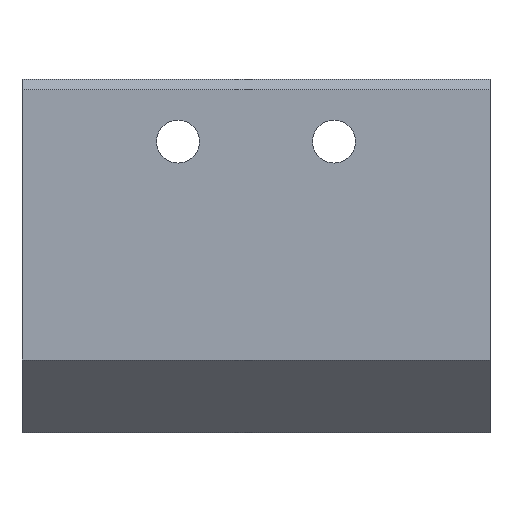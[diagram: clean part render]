
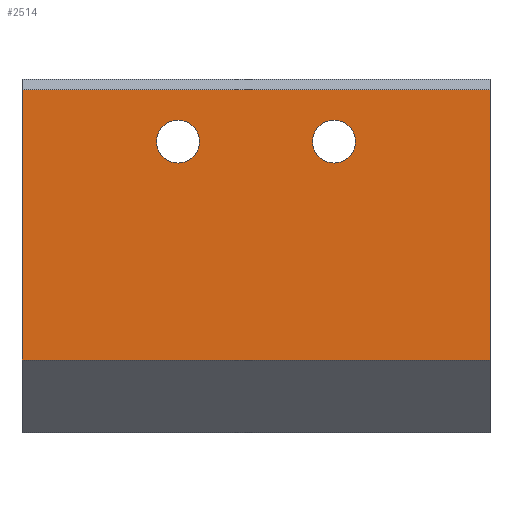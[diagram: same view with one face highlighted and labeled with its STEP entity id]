
A CAD part, front view. The second image highlights one B-rep face of the part: STEP entity #2514.
In plain terms, the highlighted planar face has unit normal (0, -1, 0).
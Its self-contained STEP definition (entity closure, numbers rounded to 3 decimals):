
#1355=CARTESIAN_POINT('',(45.0,-14.,19.));
#1356=VERTEX_POINT('',#1355);
#1373=CARTESIAN_POINT('',(0.0,-14.,19.));
#1374=VERTEX_POINT('',#1373);
#1381=CARTESIAN_POINT('',(0.0,-14.,19.));
#1382=DIRECTION('',(1.0,0.0,0.0));
#1383=VECTOR('',#1382,45.0);
#1384=LINE('',#1381,#1383);
#1385=EDGE_CURVE('',#1374,#1356,#1384,.T.);
#1436=CARTESIAN_POINT('',(0.0,-14.,-7.));
#1437=VERTEX_POINT('',#1436);
#1444=CARTESIAN_POINT('',(0.0,-14.,-7.));
#1445=DIRECTION('',(0.0,0.0,1.0));
#1446=VECTOR('',#1445,26.0);
#1447=LINE('',#1444,#1446);
#1448=EDGE_CURVE('',#1437,#1374,#1447,.T.);
#1541=CARTESIAN_POINT('',(45.0,-14.,-7.));
#1542=VERTEX_POINT('',#1541);
#1549=CARTESIAN_POINT('',(45.0,-14.,-7.));
#1550=DIRECTION('',(-1.0,0.0,0.0));
#1551=VECTOR('',#1550,45.0);
#1552=LINE('',#1549,#1551);
#1553=EDGE_CURVE('',#1542,#1437,#1552,.T.);
#2248=CARTESIAN_POINT('',(32.067,-14.,14.));
#2249=VERTEX_POINT('',#2248);
#2250=CARTESIAN_POINT('',(30.0,-14.,14.));
#2251=DIRECTION('',(0.0,1.0,0.0));
#2252=DIRECTION('',(-1.0,0.0,0.0));
#2253=AXIS2_PLACEMENT_3D('',#2250,#2251,#2252);
#2254=CIRCLE('',#2253,2.067);
#2255=EDGE_CURVE('',#2249,#2249,#2254,.T.);
#2358=CARTESIAN_POINT('',(17.067,-14.,14.));
#2359=VERTEX_POINT('',#2358);
#2360=CARTESIAN_POINT('',(15.0,-14.,14.));
#2361=DIRECTION('',(0.0,1.0,0.0));
#2362=DIRECTION('',(-1.0,0.0,0.0));
#2363=AXIS2_PLACEMENT_3D('',#2360,#2361,#2362);
#2364=CIRCLE('',#2363,2.067);
#2365=EDGE_CURVE('',#2359,#2359,#2364,.T.);
#2492=CARTESIAN_POINT('',(0.0,-14.,-14.));
#2493=DIRECTION('',(0.0,-1.0,0.0));
#2494=DIRECTION('',(0.0,0.0,-1.0));
#2495=AXIS2_PLACEMENT_3D('',#2492,#2493,#2494);
#2496=PLANE('',#2495);
#2497=ORIENTED_EDGE('',*,*,#1385,.F.);
#2498=ORIENTED_EDGE('',*,*,#1448,.F.);
#2499=ORIENTED_EDGE('',*,*,#1553,.F.);
#2500=CARTESIAN_POINT('',(45.0,-14.,-7.));
#2501=DIRECTION('',(0.0,0.0,1.0));
#2502=VECTOR('',#2501,26.0);
#2503=LINE('',#2500,#2502);
#2504=EDGE_CURVE('',#1542,#1356,#2503,.T.);
#2505=ORIENTED_EDGE('',*,*,#2504,.T.);
#2506=EDGE_LOOP('',(#2497,#2498,#2499,#2505));
#2507=FACE_OUTER_BOUND('',#2506,.T.);
#2508=ORIENTED_EDGE('',*,*,#2255,.T.);
#2509=EDGE_LOOP('',(#2508));
#2510=FACE_BOUND('',#2509,.T.);
#2511=ORIENTED_EDGE('',*,*,#2365,.T.);
#2512=EDGE_LOOP('',(#2511));
#2513=FACE_BOUND('',#2512,.T.);
#2514=ADVANCED_FACE('',(#2507,#2510,#2513),#2496,.T.);
